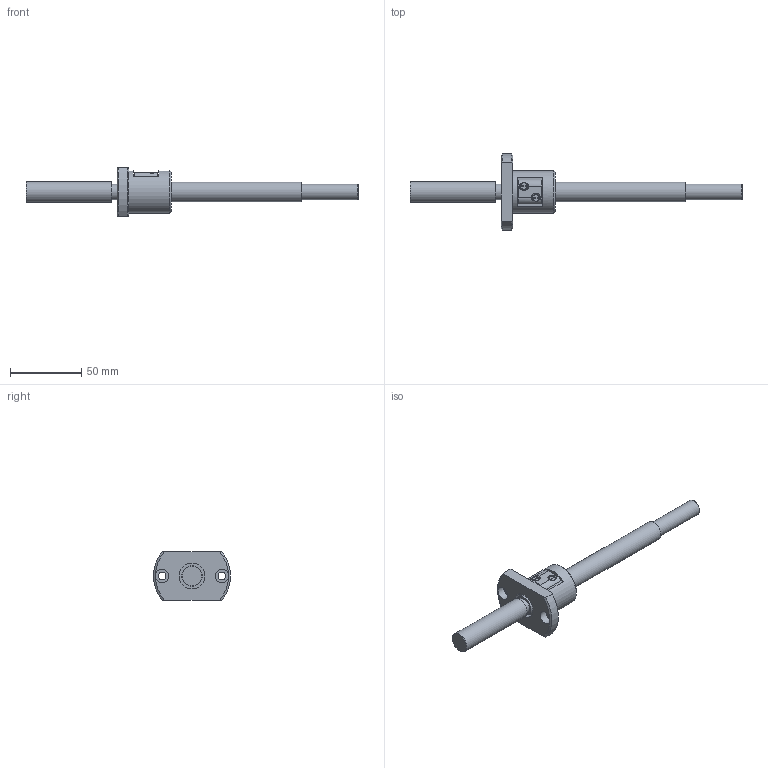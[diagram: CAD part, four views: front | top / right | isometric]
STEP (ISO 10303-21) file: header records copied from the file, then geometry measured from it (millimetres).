
FILE_DESCRIPTION(/* description */ ('STEP AP203'),/* implementation_level */ '2;1');
FILE_NAME(/* name */ 'MBF1404-3.7RRGT+233LC3A(0)',/* time_stamp */ '2024-07-15T08:03:43+02:00',/* author */ ('License CC BY-ND 4.0'),/* organization */ ('CADENAS'),/* preprocessor_version */ 'ST-DEVELOPER v19.3',/* originating_system */ 'PARTsolutions',/* authorisation */ ' ');
FILE_SCHEMA (('CONFIG_CONTROL_DESIGN'));
Length unit declared in the file: millimetre
Products named in the file (3): MBF1404-3.7RRGT+233LC3A(0); MBF1404-3.7RRGT+233LC3A(.0)_shaft; MBF 1404-3.7_nut
Assembly tree (2 placements, depth 2):
  MBF1404-3.7RRGT+233LC3A(0)
    MBF1404-3.7RRGT+233LC3A(.0)_shaft
    MBF 1404-3.7_nut
Bounding box: 233 x 54 x 34 mm (x, y, z)
Volume: 60638.8 mm3; surface area: 19704.4 mm2
Topology: 2 solids, 2 shells, 67 faces, 160 edges, 105 vertices
Faces by surface type: plane 34, cylinder 20, cone 13
Full cylindrical faces by diameter (mm): 5.5 x2, 9.5 x2, 11.2 x2, 14 x2, 14.3 x1, 18 x2, 30 x1
Entity records: 1959 total; most frequent: CARTESIAN_POINT 416, DIRECTION 304, ORIENTED_EDGE 278, EDGE_CURVE 139, AXIS2_PLACEMENT_3D 127, VERTEX_POINT 101, EDGE_LOOP 98, FACE_BOUND 98
